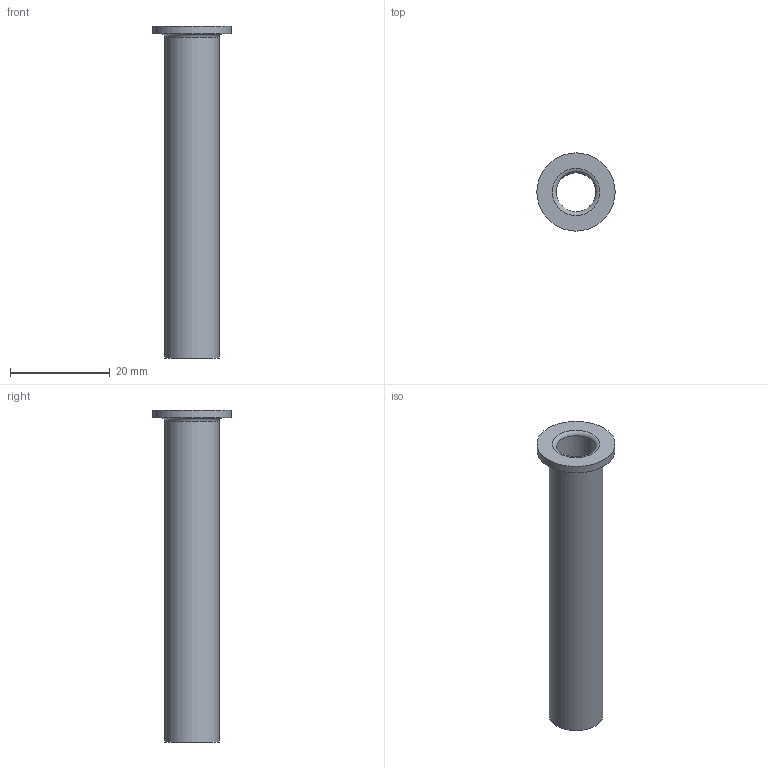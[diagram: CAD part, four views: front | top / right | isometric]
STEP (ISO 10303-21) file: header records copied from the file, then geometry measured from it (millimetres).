
FILE_DESCRIPTION (( 'STEP AP203' ), '1' );
FILE_NAME ('AN3420-6(R1).STEP', '2021-06-22T05:01:16', ( '' ), ( '' ), 'SwSTEP 2.0', 'SolidWorks 2018', '' );
FILE_SCHEMA (( 'CONFIG_CONTROL_DESIGN' ));
Length unit declared in the file: millimetre
Products named in the file (1): AN3420-6(R1)
Bounding box: 15.72 x 15.72 x 66.7 mm (x, y, z)
Volume: 3041.8 mm3; surface area: 4227.4 mm2
Topology: 1 solids, 1 shells, 8 faces, 14 edges, 9 vertices
Faces by surface type: cylinder 3, plane 3, torus 2
Full cylindrical faces by diameter (mm): 7.92 x1, 10.85 x1, 15.72 x1
Entity records: 245 total; most frequent: DIRECTION 34, CARTESIAN_POINT 25, AXIS2_PLACEMENT_3D 17, ORIENTED_EDGE 16, EDGE_LOOP 16, FACE_OUTER_BOUND 13, EDGE_CURVE 8, VERTEX_POINT 8
